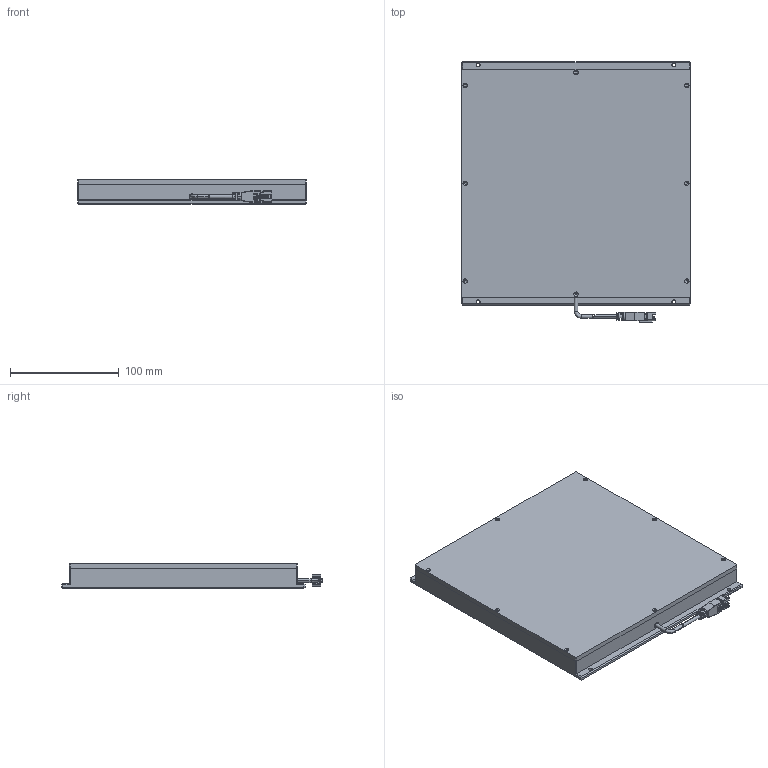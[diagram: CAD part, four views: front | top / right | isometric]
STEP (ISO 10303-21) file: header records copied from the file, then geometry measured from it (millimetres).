
FILE_DESCRIPTION (( 'STEP AP203' ), '1' );
FILE_NAME ('CRT-PFLD200200-¼òÒ×3DÍ¼.STEP', '2021-11-27T02:15:26', ( 'Admin' ), ( '' ), 'SwSTEP 2.0', 'SolidWorks 2018', '' );
FILE_SCHEMA (( 'CONFIG_CONTROL_DESIGN' ));
Length unit declared in the file: millimetre
Products named in the file (1): CRT-PFLD200200-潠眢3D芞
Bounding box: 210 x 239.95 x 22.5 mm (x, y, z)
Surface area: 114880.5 mm2 (no closed solid volume)
Topology: 0 solids, 4 shells, 252 faces, 734 edges, 466 vertices
Faces by surface type: plane 145, cylinder 75, cone 20, bspline 9, torus 3
Entity records: 8675 total; most frequent: CARTESIAN_POINT 2057, DIRECTION 1365, ORIENTED_EDGE 1276, EDGE_CURVE 730, VECTOR 481, LINE 481, VERTEX_POINT 466, AXIS2_PLACEMENT_3D 442
